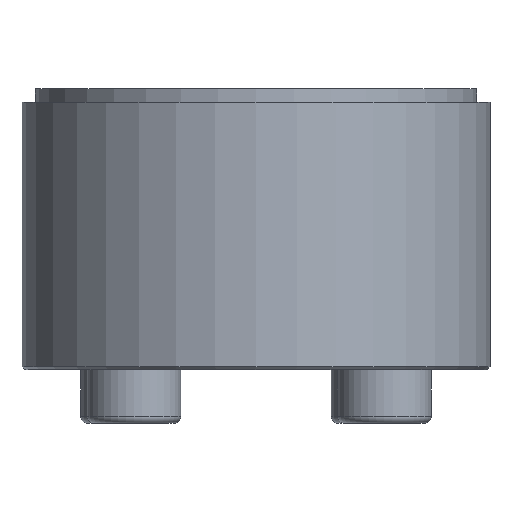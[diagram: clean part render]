
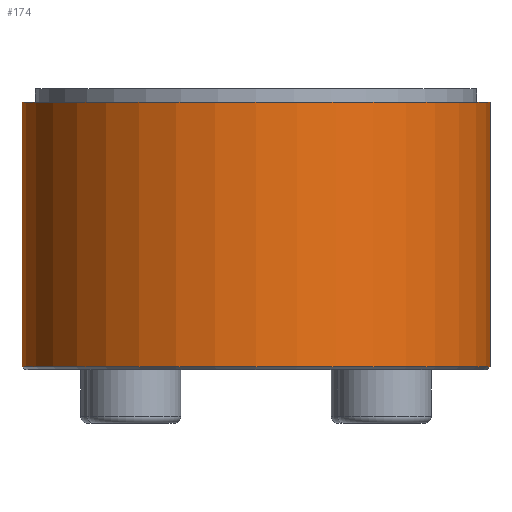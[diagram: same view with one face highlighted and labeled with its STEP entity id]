
A CAD part, front view. The second image highlights one B-rep face of the part: STEP entity #174.
In plain terms, the highlighted cylindrical face has radius 17.5 mm (diameter 35 mm), a partial arc.
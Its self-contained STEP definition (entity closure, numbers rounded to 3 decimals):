
#60 = CARTESIAN_POINT ( 'NONE',  ( 0., 0., 9.5 ) ) ;
#120 = VERTEX_POINT ( 'NONE', #1313 ) ;
#152 = CARTESIAN_POINT ( 'NONE',  ( 17.5, 0., -10.3 ) ) ;
#174 = ADVANCED_FACE ( 'NONE', ( #721 ), #1472, .T. ) ;
#314 = VERTEX_POINT ( 'NONE', #827 ) ;
#315 = VERTEX_POINT ( 'NONE', #152 ) ;
#319 = DIRECTION ( 'NONE',  ( 0., 0., -1. ) ) ;
#336 = DIRECTION ( 'NONE',  ( 0., 0., -1. ) ) ;
#389 = DIRECTION ( 'NONE',  ( -1., 0., 0. ) ) ;
#539 = DIRECTION ( 'NONE',  ( 0., 0., -1. ) ) ;
#614 = AXIS2_PLACEMENT_3D ( 'NONE', #1517, #1783, #950 ) ;
#721 = FACE_OUTER_BOUND ( 'NONE', #1521, .T. ) ;
#722 = EDGE_CURVE ( 'NONE', #120, #314, #1534, .T. ) ;
#740 = VERTEX_POINT ( 'NONE', #1662 ) ;
#827 = CARTESIAN_POINT ( 'NONE',  ( -17.5, 0., -10.3 ) ) ;
#855 = CIRCLE ( 'NONE', #614, 17.5 ) ;
#896 = ORIENTED_EDGE ( 'NONE', *, *, #933, .T. ) ;
#933 = EDGE_CURVE ( 'NONE', #740, #120, #989, .T. ) ;
#950 = DIRECTION ( 'NONE',  ( -1., 0., 0. ) ) ;
#989 = CIRCLE ( 'NONE', #1358, 17.5 ) ;
#1023 = ORIENTED_EDGE ( 'NONE', *, *, #1320, .F. ) ;
#1035 = VECTOR ( 'NONE', #319, 1000. ) ;
#1060 = ORIENTED_EDGE ( 'NONE', *, *, #722, .T. ) ;
#1085 = CARTESIAN_POINT ( 'NONE',  ( -17.5, 0., 0. ) ) ;
#1118 = CARTESIAN_POINT ( 'NONE',  ( 17.5, 0., 0. ) ) ;
#1162 = VECTOR ( 'NONE', #1781, 1000. ) ;
#1163 = LINE ( 'NONE', #1118, #1035 ) ;
#1201 = AXIS2_PLACEMENT_3D ( 'NONE', #1467, #539, #389 ) ;
#1221 = EDGE_CURVE ( 'NONE', #314, #315, #855, .T. ) ;
#1255 = ORIENTED_EDGE ( 'NONE', *, *, #1221, .T. ) ;
#1290 = DIRECTION ( 'NONE',  ( 1., 0., 0. ) ) ;
#1313 = CARTESIAN_POINT ( 'NONE',  ( -17.5, 0., 9.5 ) ) ;
#1320 = EDGE_CURVE ( 'NONE', #740, #315, #1163, .T. ) ;
#1358 = AXIS2_PLACEMENT_3D ( 'NONE', #60, #336, #1290 ) ;
#1467 = CARTESIAN_POINT ( 'NONE',  ( 0., 0., 0. ) ) ;
#1472 = CYLINDRICAL_SURFACE ( 'NONE', #1201, 17.5 ) ;
#1517 = CARTESIAN_POINT ( 'NONE',  ( 0., 0., -10.3 ) ) ;
#1521 = EDGE_LOOP ( 'NONE', ( #1023, #896, #1060, #1255 ) ) ;
#1534 = LINE ( 'NONE', #1085, #1162 ) ;
#1662 = CARTESIAN_POINT ( 'NONE',  ( 17.5, 0., 9.5 ) ) ;
#1781 = DIRECTION ( 'NONE',  ( 0., 0., -1. ) ) ;
#1783 = DIRECTION ( 'NONE',  ( 0., 0., 1. ) ) ;
